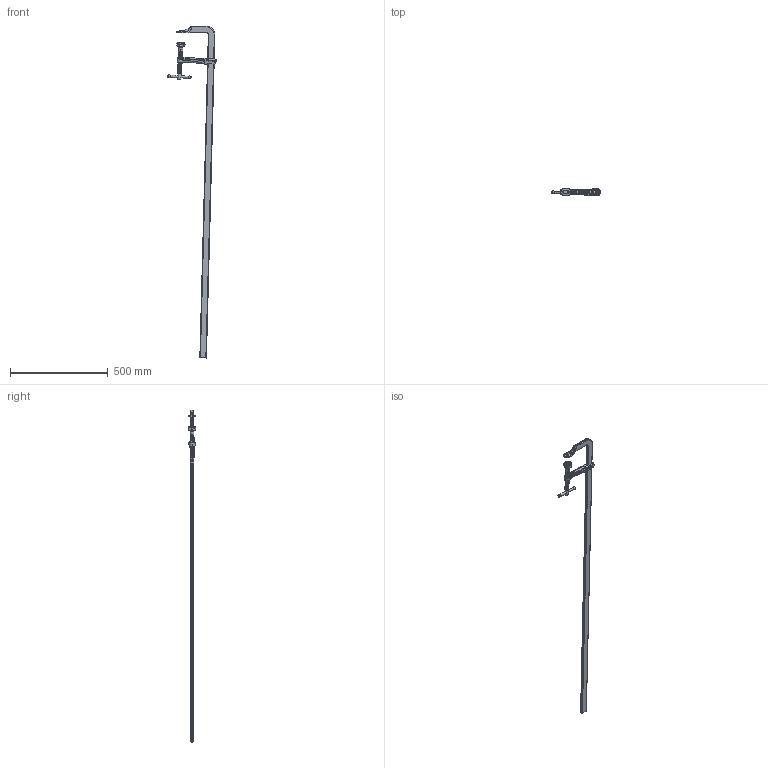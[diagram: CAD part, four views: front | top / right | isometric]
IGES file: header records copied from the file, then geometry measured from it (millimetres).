
Start section: ZWSOFT
Global section: file name: 2400S-60_SG150M-AC.igs; native system: ZW3D; preprocessor: 1.0; author: ZW3D; organization: ZWSOFT; date: 130306.152943; units: millimetre
Bounding box: 249.99 x 40 x 1697.4 mm (x, y, z)
Surface area: 227113.6 mm2 (no closed solid volume)
Topology: 0 solids, 0 shells, 499 faces, 2438 edges, 2362 vertices
Faces by surface type: bspline 499
